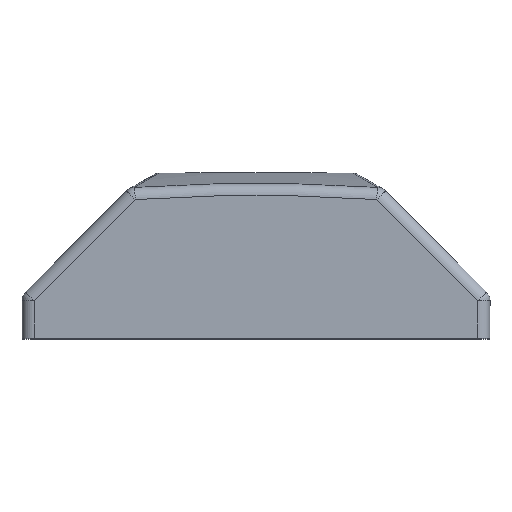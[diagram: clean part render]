
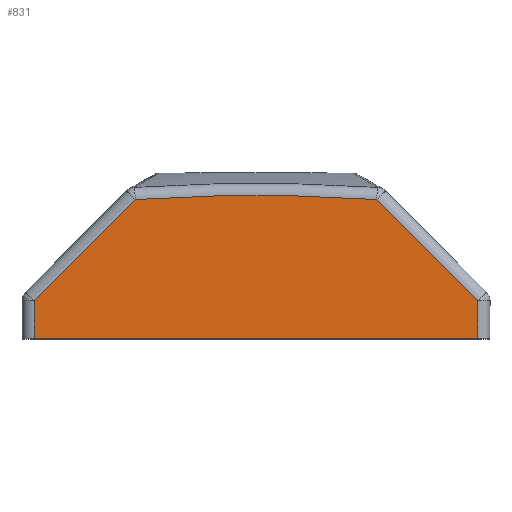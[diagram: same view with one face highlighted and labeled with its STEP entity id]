
A CAD part, top view. The second image highlights one B-rep face of the part: STEP entity #831.
In plain terms, the highlighted planar face has unit normal (0, 0, 1).
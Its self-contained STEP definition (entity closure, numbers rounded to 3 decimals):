
#21=PLANE('',#944);
#70=FACE_OUTER_BOUND('',#127,.T.);
#127=EDGE_LOOP('',(#625,#626,#627,#628,#629,#630));
#173=LINE('',#1433,#218);
#195=LINE('',#1504,#240);
#196=LINE('',#1505,#241);
#197=LINE('',#1507,#242);
#198=LINE('',#1509,#243);
#218=VECTOR('',#1097,1000.);
#240=VECTOR('',#1155,1000.);
#241=VECTOR('',#1156,1000.);
#242=VECTOR('',#1157,1000.);
#243=VECTOR('',#1158,1000.);
#303=CIRCLE('',#945,74.416);
#371=VERTEX_POINT('',#1431);
#372=VERTEX_POINT('',#1432);
#402=VERTEX_POINT('',#1502);
#403=VERTEX_POINT('',#1503);
#404=VERTEX_POINT('',#1506);
#405=VERTEX_POINT('',#1508);
#450=EDGE_CURVE('',#371,#372,#173,.T.);
#484=EDGE_CURVE('',#402,#403,#195,.T.);
#485=EDGE_CURVE('',#403,#371,#196,.T.);
#486=EDGE_CURVE('',#372,#404,#197,.T.);
#487=EDGE_CURVE('',#404,#405,#198,.T.);
#488=EDGE_CURVE('',#405,#402,#303,.T.);
#625=ORIENTED_EDGE('',*,*,#484,.T.);
#626=ORIENTED_EDGE('',*,*,#485,.T.);
#627=ORIENTED_EDGE('',*,*,#450,.T.);
#628=ORIENTED_EDGE('',*,*,#486,.T.);
#629=ORIENTED_EDGE('',*,*,#487,.T.);
#630=ORIENTED_EDGE('',*,*,#488,.T.);
#831=ADVANCED_FACE('',(#70),#21,.F.);
#944=AXIS2_PLACEMENT_3D('',#1501,#1153,#1154);
#945=AXIS2_PLACEMENT_3D('',#1510,#1159,#1160);
#1097=DIRECTION('',(1.,0.,0.));
#1153=DIRECTION('center_axis',(0.,0.,-1.));
#1154=DIRECTION('ref_axis',(-1.,0.,0.));
#1155=DIRECTION('',(-0.707,-0.707,0.));
#1156=DIRECTION('',(0.,-1.,0.));
#1157=DIRECTION('',(0.,1.,0.));
#1158=DIRECTION('',(-0.707,0.707,0.));
#1159=DIRECTION('center_axis',(0.,0.,1.));
#1160=DIRECTION('ref_axis',(-1.,0.,0.));
#1431=CARTESIAN_POINT('',(-9.1,68.56,9.6));
#1432=CARTESIAN_POINT('',(9.1,68.56,9.6));
#1433=CARTESIAN_POINT('',(-9.6,68.56,9.6));
#1501=CARTESIAN_POINT('Origin',(-9.6,68.56,9.6));
#1502=CARTESIAN_POINT('',(-4.952,74.251,9.6));
#1503=CARTESIAN_POINT('',(-9.1,70.103,9.6));
#1504=CARTESIAN_POINT('',(-10.121,69.081,9.6));
#1505=CARTESIAN_POINT('',(-9.1,68.56,9.6));
#1506=CARTESIAN_POINT('',(9.1,70.103,9.6));
#1507=CARTESIAN_POINT('',(9.1,68.56,9.6));
#1508=CARTESIAN_POINT('',(4.952,74.251,9.6));
#1509=CARTESIAN_POINT('',(0.521,78.681,9.6));
#1510=CARTESIAN_POINT('Origin',(0.,0.,9.6));
